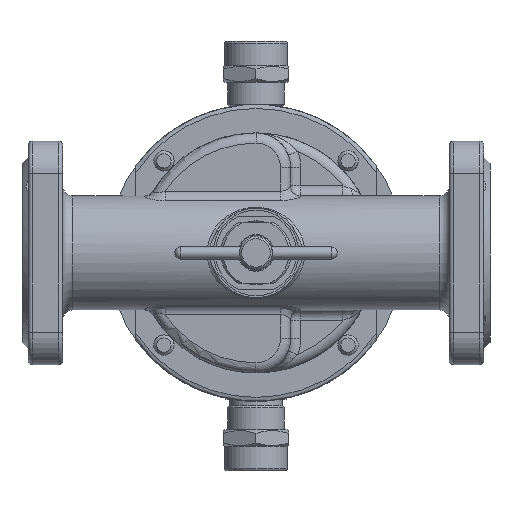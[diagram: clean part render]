
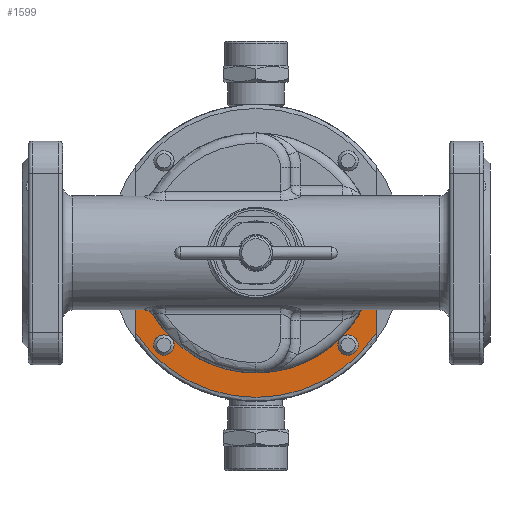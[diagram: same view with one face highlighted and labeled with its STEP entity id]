
A CAD part, front view. The second image highlights one B-rep face of the part: STEP entity #1599.
In plain terms, the highlighted planar face has unit normal (0, -1, 0).
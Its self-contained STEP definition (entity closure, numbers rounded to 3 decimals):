
#1599=ADVANCED_FACE('',(#17135),#17137,.F.);
#17135=FACE_OUTER_BOUND('',#17136,.T.);
#17136=EDGE_LOOP('',(#29486,#29487,#29488,#29489,#29490,#29491,#29492,#29493,#29494,
#29495));
#17137=PLANE('',#17138);
#17138=AXIS2_PLACEMENT_3D('',#17139,#17140,#17141);
#17139=CARTESIAN_POINT('',(0.,39.5,0.));
#17140=DIRECTION('',(0.,1.,0.));
#17141=DIRECTION('',(-1.,0.,0.));
#29486=ORIENTED_EDGE('',*,*,#36874,.F.);
#29487=ORIENTED_EDGE('',*,*,#36875,.F.);
#29488=ORIENTED_EDGE('',*,*,#36876,.F.);
#29489=ORIENTED_EDGE('',*,*,#36853,.F.);
#29490=ORIENTED_EDGE('',*,*,#36877,.F.);
#29491=ORIENTED_EDGE('',*,*,#36847,.F.);
#29492=ORIENTED_EDGE('',*,*,#36878,.F.);
#29493=ORIENTED_EDGE('',*,*,#36879,.F.);
#29494=ORIENTED_EDGE('',*,*,#36880,.F.);
#29495=ORIENTED_EDGE('',*,*,#36881,.F.);
#36847=EDGE_CURVE('',#44498,#44500,#44501,.T.);
#36853=EDGE_CURVE('',#44508,#44510,#44511,.T.);
#36874=EDGE_CURVE('',#44544,#44545,#44546,.T.);
#36875=EDGE_CURVE('',#44545,#44544,#44547,.T.);
#36876=EDGE_CURVE('',#44510,#44545,#44548,.T.);
#36877=EDGE_CURVE('',#44500,#44508,#44549,.T.);
#36878=EDGE_CURVE('',#44550,#44498,#44551,.T.);
#36879=EDGE_CURVE('',#44552,#44550,#44553,.T.);
#36880=EDGE_CURVE('',#44550,#44552,#44554,.T.);
#36881=EDGE_CURVE('',#44545,#44550,#44555,.T.);
#44498=VERTEX_POINT('',#67719);
#44500=VERTEX_POINT('',#67723);
#44501=LINE('',#67724,#67725);
#44508=VERTEX_POINT('',#67794);
#44510=VERTEX_POINT('',#67850);
#44511=LINE('',#67851,#67852);
#44544=VERTEX_POINT('',#67993);
#44545=VERTEX_POINT('',#67994);
#44546=CIRCLE('',#67995,5.);
#44547=CIRCLE('',#67999,5.);
#44548=CIRCLE('',#68003,59.);
#44549=CIRCLE('',#68007,71.);
#44550=VERTEX_POINT('',#68011);
#44551=CIRCLE('',#68012,59.);
#44552=VERTEX_POINT('',#68016);
#44553=CIRCLE('',#68017,5.);
#44554=CIRCLE('',#68021,5.);
#44555=CIRCLE('',#68025,59.);
#67719=CARTESIAN_POINT('',(59.,39.5,0.));
#67723=CARTESIAN_POINT('',(59.,39.5,-39.497));
#67724=CARTESIAN_POINT('',(59.,39.5,0.));
#67725=VECTOR('',#67726,1.);
#67726=DIRECTION('',(0.,0.,-1.));
#67794=CARTESIAN_POINT('',(-59.,39.5,-39.497));
#67850=CARTESIAN_POINT('',(-59.,39.5,0.));
#67851=CARTESIAN_POINT('',(-59.,39.5,-39.497));
#67852=VECTOR('',#67853,1.);
#67853=DIRECTION('',(0.,0.,1.));
#67993=CARTESIAN_POINT('',(-45.255,39.5,-50.255));
#67994=CARTESIAN_POINT('',(-41.719,39.5,-41.719));
#67995=AXIS2_PLACEMENT_3D('',#67996,#67997,#67998);
#67996=CARTESIAN_POINT('',(-45.255,39.5,-45.255));
#67997=DIRECTION('',(0.,-1.,0.));
#67998=DIRECTION('',(0.,0.,-1.));
#67999=AXIS2_PLACEMENT_3D('',#68000,#68001,#68002);
#68000=CARTESIAN_POINT('',(-45.255,39.5,-45.255));
#68001=DIRECTION('',(0.,-1.,0.));
#68002=DIRECTION('',(0.707,0.,0.707));
#68003=AXIS2_PLACEMENT_3D('',#68004,#68005,#68006);
#68004=CARTESIAN_POINT('',(0.,39.5,0.));
#68005=DIRECTION('',(0.,-1.,0.));
#68006=DIRECTION('',(-1.,0.,0.));
#68007=AXIS2_PLACEMENT_3D('',#68008,#68009,#68010);
#68008=CARTESIAN_POINT('',(0.,39.5,0.));
#68009=DIRECTION('',(0.,1.,0.));
#68010=DIRECTION('',(0.831,0.,-0.556));
#68011=CARTESIAN_POINT('',(41.719,39.5,-41.719));
#68012=AXIS2_PLACEMENT_3D('',#68013,#68014,#68015);
#68013=CARTESIAN_POINT('',(0.,39.5,0.));
#68014=DIRECTION('',(0.,-1.,0.));
#68015=DIRECTION('',(0.707,0.,-0.707));
#68016=CARTESIAN_POINT('',(50.255,39.5,-45.255));
#68017=AXIS2_PLACEMENT_3D('',#68018,#68019,#68020);
#68018=CARTESIAN_POINT('',(45.255,39.5,-45.255));
#68019=DIRECTION('',(0.,-1.,0.));
#68020=DIRECTION('',(1.,0.,0.));
#68021=AXIS2_PLACEMENT_3D('',#68022,#68023,#68024);
#68022=CARTESIAN_POINT('',(45.255,39.5,-45.255));
#68023=DIRECTION('',(0.,-1.,0.));
#68024=DIRECTION('',(-0.707,0.,0.707));
#68025=AXIS2_PLACEMENT_3D('',#68026,#68027,#68028);
#68026=CARTESIAN_POINT('',(0.,39.5,0.));
#68027=DIRECTION('',(0.,-1.,0.));
#68028=DIRECTION('',(-0.707,0.,-0.707));
